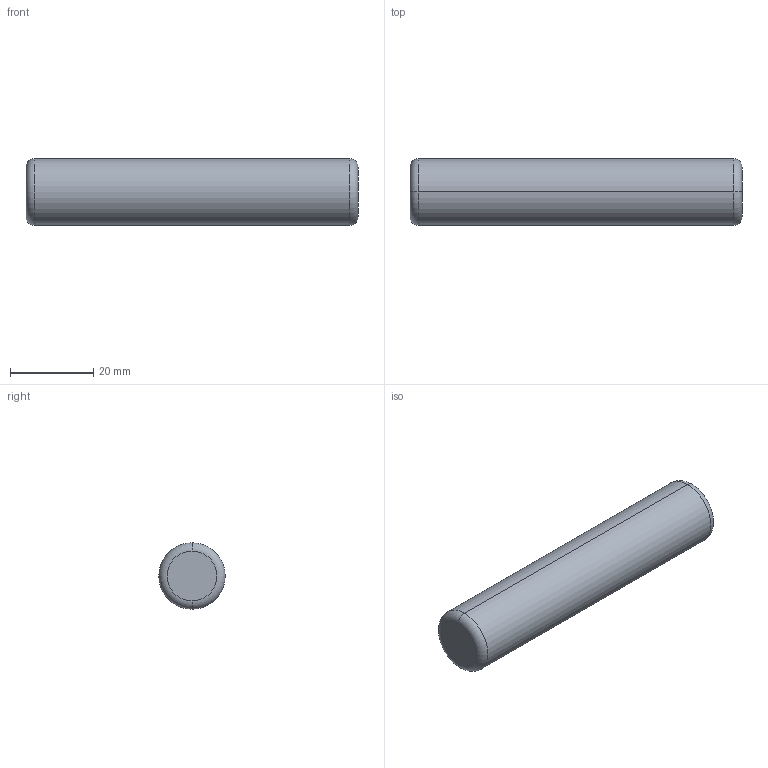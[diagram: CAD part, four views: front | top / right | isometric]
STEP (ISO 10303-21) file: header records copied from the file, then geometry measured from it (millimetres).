
FILE_DESCRIPTION (( 'STEP AP214' ), '1' );
FILE_NAME ('PAS-16x80.STEP', '2020-06-22T11:42:44', ( 'August' ), ( '' ), 'SwSTEP 2.0', 'SolidWorks 2018', '' );
FILE_SCHEMA (( 'AUTOMOTIVE_DESIGN' ));
Length unit declared in the file: millimetre
Products named in the file (1): PAS-16x80
Bounding box: 80 x 16 x 16 mm (x, y, z)
Volume: 16003.5 mm3; surface area: 4333.5 mm2
Topology: 1 solids, 1 shells, 8 faces, 14 edges, 8 vertices
Faces by surface type: torus 4, cylinder 2, plane 2
Entity records: 232 total; most frequent: DIRECTION 44, CARTESIAN_POINT 31, ORIENTED_EDGE 28, AXIS2_PLACEMENT_3D 21, EDGE_CURVE 14, CIRCLE 12, VERTEX_POINT 8, FACE_OUTER_BOUND 8
